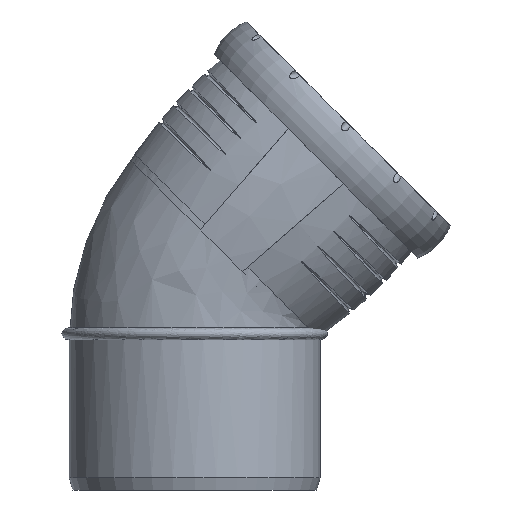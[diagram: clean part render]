
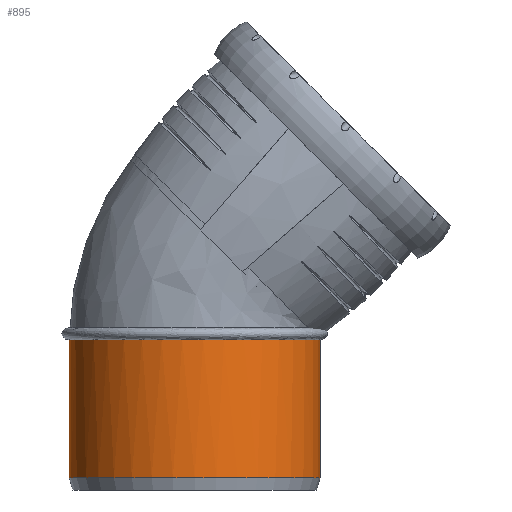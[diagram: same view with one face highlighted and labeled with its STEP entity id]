
A CAD part, front view. The second image highlights one B-rep face of the part: STEP entity #895.
In plain terms, the highlighted cylindrical face has radius 62.6 mm (diameter 125.2 mm), a full revolution.
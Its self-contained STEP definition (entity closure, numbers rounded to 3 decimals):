
#50=CYLINDRICAL_SURFACE('',#1001,62.6);
#97=FACE_BOUND('',#228,.T.);
#152=FACE_OUTER_BOUND('',#227,.T.);
#227=EDGE_LOOP('',(#762,#763,#764,#765,#766));
#228=EDGE_LOOP('',(#767));
#316=CIRCLE('',#985,62.6);
#318=CIRCLE('',#991,62.6);
#320=CIRCLE('',#995,62.6);
#321=CIRCLE('',#996,62.6);
#322=CIRCLE('',#997,62.6);
#325=CIRCLE('',#1002,62.6);
#407=VERTEX_POINT('',#3748);
#410=VERTEX_POINT('',#4109);
#413=VERTEX_POINT('',#4164);
#418=VERTEX_POINT('',#4266);
#421=VERTEX_POINT('',#4355);
#423=VERTEX_POINT('',#4365);
#521=EDGE_CURVE('',#410,#413,#316,.T.);
#529=EDGE_CURVE('',#413,#418,#318,.T.);
#534=EDGE_CURVE('',#418,#421,#320,.T.);
#535=EDGE_CURVE('',#407,#410,#321,.T.);
#536=EDGE_CURVE('',#421,#407,#322,.T.);
#539=EDGE_CURVE('',#423,#423,#325,.T.);
#762=ORIENTED_EDGE('',*,*,#536,.T.);
#763=ORIENTED_EDGE('',*,*,#535,.T.);
#764=ORIENTED_EDGE('',*,*,#521,.T.);
#765=ORIENTED_EDGE('',*,*,#529,.T.);
#766=ORIENTED_EDGE('',*,*,#534,.T.);
#767=ORIENTED_EDGE('',*,*,#539,.F.);
#895=ADVANCED_FACE('',(#152,#97),#50,.T.);
#985=AXIS2_PLACEMENT_3D('',#4166,#1147,#1148);
#991=AXIS2_PLACEMENT_3D('',#4276,#1159,#1160);
#995=AXIS2_PLACEMENT_3D('',#4357,#1167,#1168);
#996=AXIS2_PLACEMENT_3D('',#4358,#1169,#1170);
#997=AXIS2_PLACEMENT_3D('',#4359,#1171,#1172);
#1001=AXIS2_PLACEMENT_3D('',#4364,#1179,#1180);
#1002=AXIS2_PLACEMENT_3D('',#4366,#1181,#1182);
#1147=DIRECTION('center_axis',(0.,0.,-1.));
#1148=DIRECTION('ref_axis',(1.,0.,0.));
#1159=DIRECTION('center_axis',(0.,0.,-1.));
#1160=DIRECTION('ref_axis',(1.,0.,0.));
#1167=DIRECTION('center_axis',(0.,0.,-1.));
#1168=DIRECTION('ref_axis',(1.,0.,0.));
#1169=DIRECTION('center_axis',(0.,0.,-1.));
#1170=DIRECTION('ref_axis',(1.,0.,0.));
#1171=DIRECTION('center_axis',(0.,0.,-1.));
#1172=DIRECTION('ref_axis',(1.,0.,0.));
#1179=DIRECTION('center_axis',(0.,0.,-1.));
#1180=DIRECTION('ref_axis',(0.,1.,0.));
#1181=DIRECTION('center_axis',(0.,0.,-1.));
#1182=DIRECTION('ref_axis',(1.,0.,0.));
#3748=CARTESIAN_POINT('',(62.6,0.,74.902));
#4109=CARTESIAN_POINT('',(-50.319,-37.239,74.9));
#4164=CARTESIAN_POINT('',(-62.6,0.,74.9));
#4166=CARTESIAN_POINT('Origin',(0.,0.,74.9));
#4266=CARTESIAN_POINT('',(-50.319,37.239,74.9));
#4276=CARTESIAN_POINT('Origin',(0.,0.,74.9));
#4355=CARTESIAN_POINT('',(0.,62.6,74.9));
#4357=CARTESIAN_POINT('Origin',(0.,0.,74.9));
#4358=CARTESIAN_POINT('Origin',(0.,0.,74.9));
#4359=CARTESIAN_POINT('Origin',(0.,0.,74.9));
#4364=CARTESIAN_POINT('Origin',(0.,0.,40.45));
#4365=CARTESIAN_POINT('',(0.,62.6,6.));
#4366=CARTESIAN_POINT('Origin',(0.,0.,6.));
